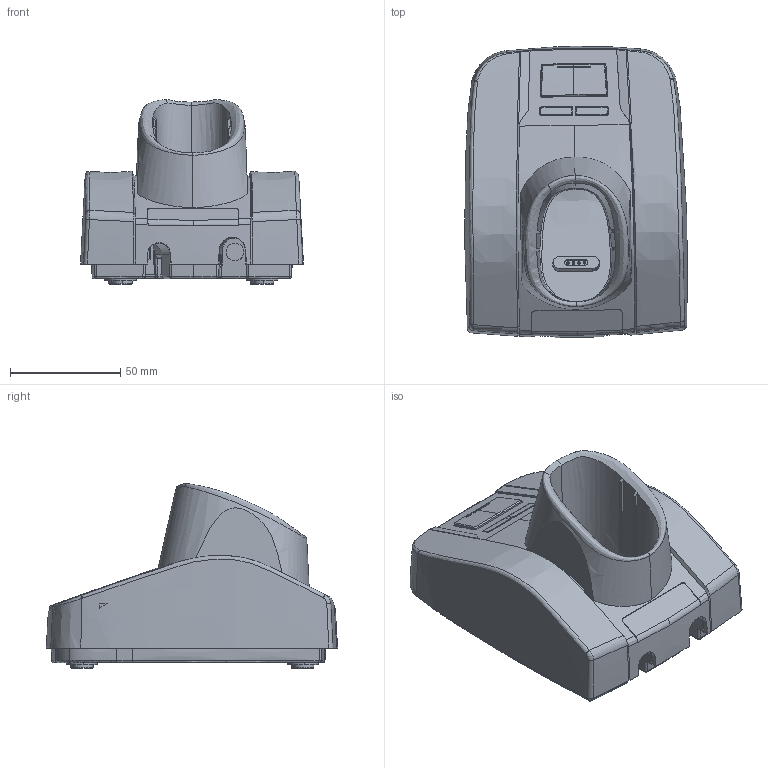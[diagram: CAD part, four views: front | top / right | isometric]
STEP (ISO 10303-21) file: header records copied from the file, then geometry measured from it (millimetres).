
FILE_DESCRIPTION((''),'2;1');
FILE_NAME('00-DIZUO_ASM','2022-11-17T15:42:04',('fangzhiyong'),(''),'CREO PARAMETRIC BY PTC INC, 2020044','CREO PARAMETRIC BY PTC INC, 2020044','');
FILE_SCHEMA(('CONFIG_CONTROL_DESIGN'));
Products named in the file (17): DE-12-002390; DE-12-002394; DE-12-002392; DE-12-002628_ASM; DE-12-002388; DE-19-003454; DE-12-002632_ASM; DE-12-001757-1; DE-12-001757_ASM; CHARGE_BOARD; 101303466; FPC; ADHESIVE_PCB; MV-23327REV10_ASM; PCBA_ASM; CASE_ASM; 00-DIZUO_ASM
Assembly tree (19 placements, depth 6):
  00-DIZUO_ASM
    CASE_ASM
      DE-12-002628_ASM
        DE-12-002390
        DE-12-002394
        DE-12-002392
      DE-12-002632_ASM
        DE-12-002388
        DE-19-003454  x4
      PCBA_ASM
        MV-23327REV10_ASM
          DE-12-001757_ASM
            DE-12-001757-1
          CHARGE_BOARD
          101303466
          FPC
          ADHESIVE_PCB
Bounding box: 100.87 x 131.79 x 83.72 mm (x, y, z)
Topology: 12 solids, 32 shells, 2918 faces, 8640 edges, 5640 vertices
Faces by surface type: plane 1714, cylinder 679, bspline 292, cone 110, extrusion 65, sphere 37, torus 21
Entity records: 121916 total; most frequent: CARTESIAN_POINT 46876, ORIENTED_EDGE 16860, DIRECTION 13720, EDGE_CURVE 8572, VERTEX_POINT 5621, VECTOR 5514, LINE 5449, AXIS2_PLACEMENT_3D 4103
